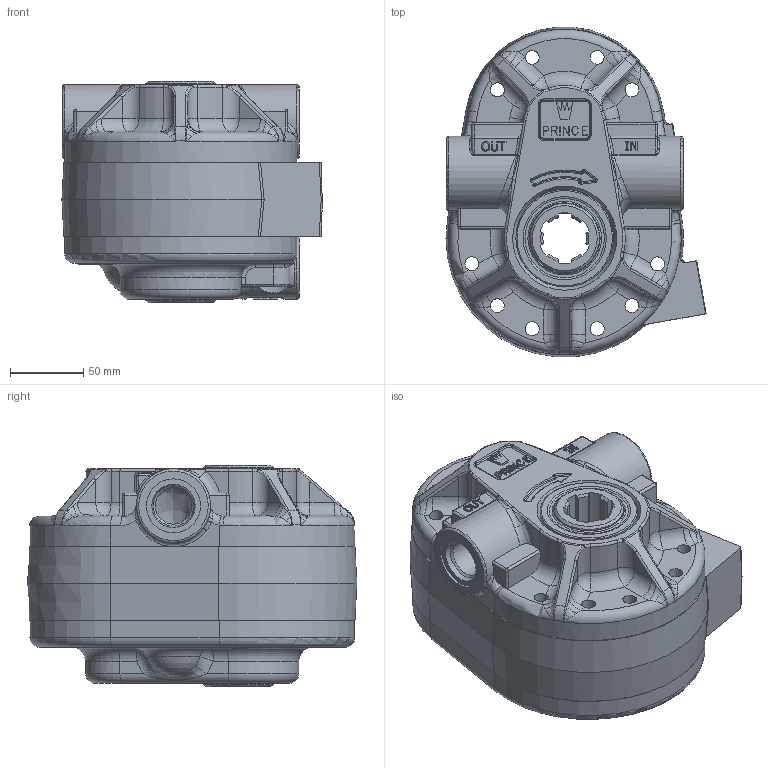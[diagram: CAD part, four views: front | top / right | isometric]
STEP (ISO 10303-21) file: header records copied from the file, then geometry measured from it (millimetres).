
FILE_DESCRIPTION((''),'2;1');
FILE_NAME('C:\Vault\Workspace\AssembliesPumps\HC-PTO_\HC-PTO-9Amodel.stp','2013-06-21T13:02:12',('otterbyj'),(''),'Autodesk Inventor 2012','Autodesk Inventor 2012','');
FILE_SCHEMA(('AUTOMOTIVE_DESIGN { 1 0 10303 214 1 1 1 1 }'));
Length unit declared in the file: inch
Products named in the file (6): HC-PTO-9Amodel; 500101004; 500101014; 500103024; 500104027m; 240016026
Assembly tree (6 placements, depth 2):
  HC-PTO-9Amodel
    500101004
    500101014
    500103024
    500104027m
    240016026  x2
Bounding box: 178.04 x 225.58 x 151.64 mm (x, y, z)
Volume: 2265531.6 mm3; surface area: 391661 mm2
Topology: 6 solids, 8 shells, 1143 faces, 2916 edges, 1796 vertices
Faces by surface type: plane 381, bspline 299, cylinder 248, torus 102, cone 87, sphere 26
Full cylindrical faces by diameter (mm): 7.798 x2, 8.731 x2, 9.525 x14, 9.545 x6, 10.319 x28, 16.256 x1, 19.05 x2, 23.8 x1, 24.994 x1, 28.702 x1, 30.937 x1, 31.75 x1, 37.033 x2, 38.1 x1, 41.255 x2, 42.926 x1, 44.348 x1, 47.582 x1, 53.184 x2, 61.04 x2, 61.89 x1, 61.915 x1, 64.77 x2, 66.599 x2, 66.802 x2
Entity records: 41970 total; most frequent: CARTESIAN_POINT 16146, ORIENTED_EDGE 5280, DIRECTION 4594, EDGE_CURVE 2640, AXIS2_PLACEMENT_3D 1734, VERTEX_POINT 1702, EDGE_LOOP 1384, VECTOR 1126
